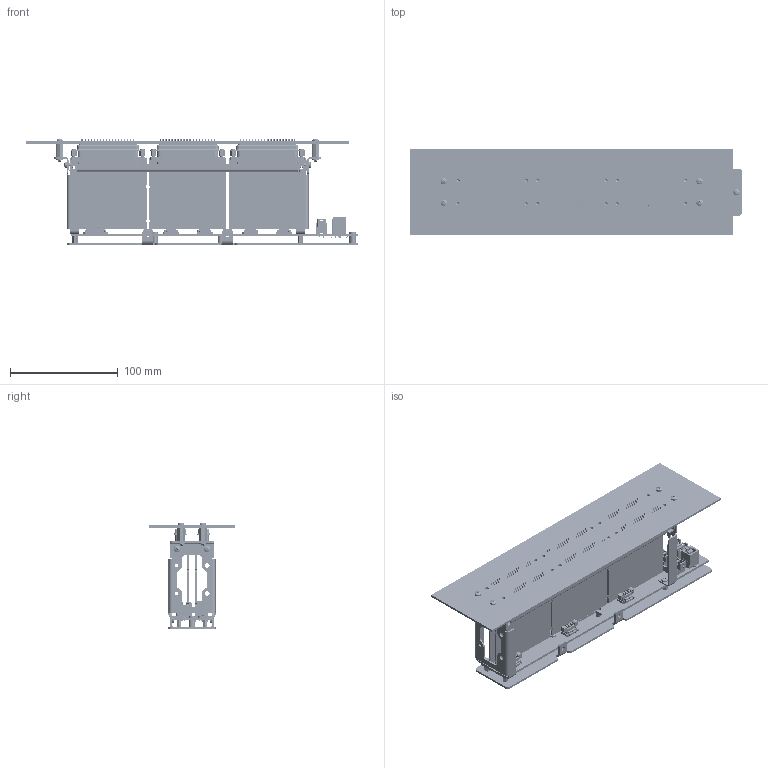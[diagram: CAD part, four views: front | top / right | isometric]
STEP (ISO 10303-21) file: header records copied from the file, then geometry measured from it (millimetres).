
FILE_DESCRIPTION((''),'2;1');
FILE_NAME('CF','2022-06-24T14:18:02',('kleong'),(''),'CREO PARAMETRIC BY PTC INC, 2021063','CREO PARAMETRIC BY PTC INC, 2021063','');
FILE_SCHEMA(('AUTOMOTIVE_DESIGN { 1 0 10303 214 1 1 1 1 }'));
Products named in the file (1): CF
Bounding box: 308 x 80 x 98.42 mm (x, y, z)
Volume: 251279.8 mm3; surface area: 258467.9 mm2
Topology: 128 solids, 134 shells, 19950 faces, 55538 edges, 35542 vertices
Faces by surface type: plane 14178, cylinder 4291, cone 783, sphere 250, torus 216, bspline 148, extrusion 84
Entity records: 832698 total; most frequent: CARTESIAN_POINT 194141, ORIENTED_EDGE 110120, DIRECTION 102078, EDGE_CURVE 55060, VECTOR 43722, LINE 43638, VERTEX_POINT 35552, AXIS2_PLACEMENT_3D 29178
